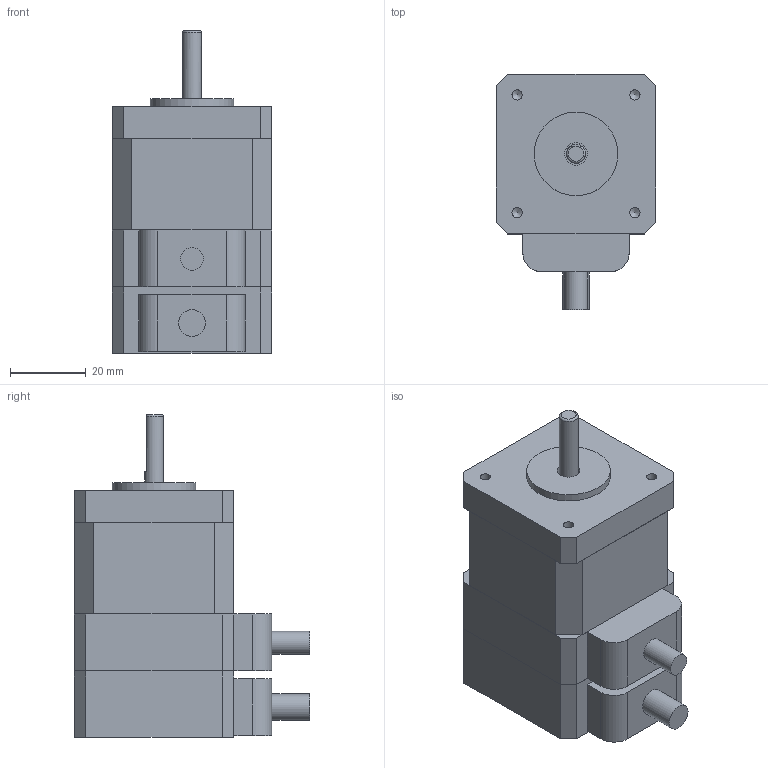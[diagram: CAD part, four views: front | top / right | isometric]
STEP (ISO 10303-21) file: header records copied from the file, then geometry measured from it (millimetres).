
FILE_DESCRIPTION(/* description */ (''),/* implementation_level */ '2;1');
FILE_NAME(/* name */ 'STP-43D3-Y17-36710.stp',/* time_stamp */ '2018-09-03T13:42:47+08:00',/* author */ (''),/* organization */ (''),/* preprocessor_version */ 'ST-DEVELOPER v11',/* originating_system */ 'SIEMENS UGS NX 6.0',/* authorisation */ '');
FILE_SCHEMA (('CONFIG_CONTROL_DESIGN'));
Length unit declared in the file: millimetre
Products named in the file (1): STP-43D3-Y17-36710
Bounding box: 42 x 62 x 85 mm (x, y, z)
Volume: 122036.6 mm3; surface area: 20010.1 mm2
Topology: 2 solids, 2 shells, 72 faces, 181 edges, 121 vertices
Faces by surface type: plane 54, cylinder 13, cone 4, torus 1
Full cylindrical faces by diameter (mm): 2.7 x4, 5 x1, 6 x2, 7 x1, 22 x1
Entity records: 2106 total; most frequent: CARTESIAN_POINT 377, DIRECTION 329, ORIENTED_EDGE 314, EDGE_CURVE 157, LINE 127, VECTOR 127, VERTEX_POINT 114, AXIS2_PLACEMENT_3D 101
